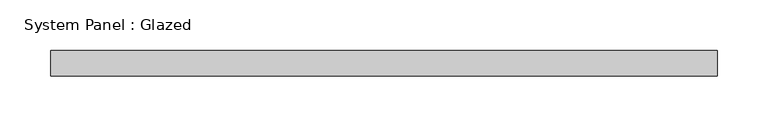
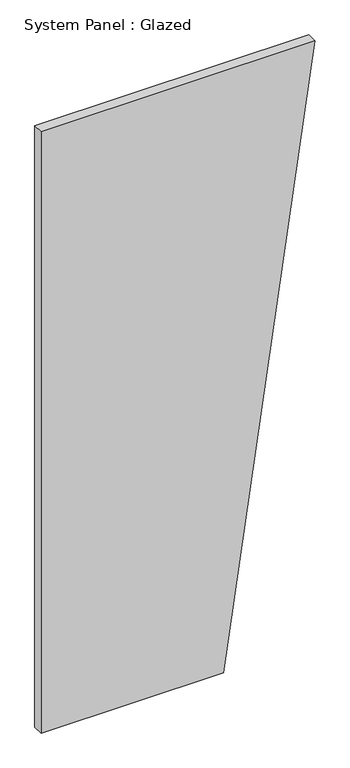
"""IFC4 building model written with IfcOpenShell, lengths in millimetres: plate geometry, System Panel : Glazed."""

import ifcopenshell
import ifcopenshell.guid

model = None  # the IFC model being written
_history = None  # IfcOwnerHistory: only IFC2X3 demands one
_inside = {}  # id of a spatial element -> (the spatial element, [elements in it])
_under = {}  # id of a project, library or spatial element -> (it, [spatial elements below it])
_declared = {}  # id of a project -> (the project, [libraries it declares])
_typed = {}  # id of a type object -> (the type object, [elements of that type])
_made_of = {}  # id of a material, layer set ... -> (it, [elements and type objects made of it])


def new_model(schema):
    """Start an empty IFC model of exactly this schema.

    Asked for "IFC4X3", IfcOpenShell would pick the latest addendum, in which some entities
    have other attributes; the version numbers below select the first issue.
    IFC2X3 requires an IfcOwnerHistory on every rooted entity: one is made here for all.
    """
    global model, _history
    if schema == "IFC4X3":
        model = ifcopenshell.file(schema_version=(4, 3, 0, 0))
    else:
        model = ifcopenshell.file(schema=schema)
    _inside.clear()
    _under.clear()
    _declared.clear()
    _typed.clear()
    _made_of.clear()
    _history = None
    if model.schema == "IFC2X3":
        org = make("IfcOrganization", Name="unknown")
        user = make(
            "IfcPersonAndOrganization",
            ThePerson=make("IfcPerson", FamilyName="unknown"),
            TheOrganization=org,
        )
        app = make(
            "IfcApplication",
            ApplicationDeveloper=org,
            Version="unknown",
            ApplicationFullName="unknown",
            ApplicationIdentifier="unknown",
        )
        _history = make(
            "IfcOwnerHistory",
            OwningUser=user,
            OwningApplication=app,
            ChangeAction="ADDED",
            CreationDate=0,
        )
    return model


def make(cls, **values):
    """One entity of the class cls with the attributes given. An attribute that is None is left unset."""
    return model.create_entity(
        cls, **{name: value for name, value in values.items() if value is not None}
    )


def rooted(cls, **values):
    """An entity with a GlobalId (a new one), such as an element, a storey or a relation."""
    return make(cls, GlobalId=ifcopenshell.guid.new(), OwnerHistory=_history, **values)


def si_unit(unit_type, name, prefix=None):
    """IfcSIUnit, for example si_unit("LENGTHUNIT", "METRE", prefix="MILLI")."""
    return make("IfcSIUnit", UnitType=unit_type, Prefix=prefix, Name=name)


def assignment(units):
    """IfcUnitAssignment: the units of a project."""
    return None if units is None else make("IfcUnitAssignment", Units=units)


def point(xyz):
    """IfcCartesianPoint."""
    return None if xyz is None else make("IfcCartesianPoint", Coordinates=xyz)


def direction(xyz):
    """IfcDirection."""
    return None if xyz is None else make("IfcDirection", DirectionRatios=xyz)


def frame(location, z_axis=None, x_axis=None):
    """IfcAxis2Placement3D, a coordinate frame: its origin and axes. An axis left out is left unset."""
    return make(
        "IfcAxis2Placement3D",
        Location=point(location),
        Axis=direction(z_axis),
        RefDirection=direction(x_axis),
    )


def origin():
    """The frame at (0, 0, 0) with its axes left unset."""
    return frame((0.0, 0.0, 0.0))


def place(relative_to, where):
    """IfcLocalPlacement: puts the frame where relative to a parent placement (None: the world)."""
    return make(
        "IfcLocalPlacement", PlacementRelTo=relative_to, RelativePlacement=where
    )


def context(
    kind, dimensions, precision=None, world=None, true_north=None, identifier=None
):
    """IfcGeometricRepresentationContext, for example the 3D "Model" context."""
    return make(
        "IfcGeometricRepresentationContext",
        ContextIdentifier=identifier,
        ContextType=kind,
        CoordinateSpaceDimension=dimensions,
        Precision=precision,
        WorldCoordinateSystem=world,
        TrueNorth=true_north,
    )


def project(units=None, contexts=None):
    """IfcProject with its units and contexts."""
    return rooted(
        "IfcProject",
        Name="project",
        RepresentationContexts=contexts,
        UnitsInContext=assignment(units),
    )


def spatial(cls, under=None, at=None, **own):
    """A site, building, storey or space (cls), placed at a placement, below another one or the project."""
    s = rooted(cls, ObjectPlacement=at, **own)
    if under is not None:
        _under.setdefault(under.id(), (under, []))[1].append(s)
    return s


def polyline(points):
    """IfcPolyline through the points."""
    return make("IfcPolyline", Points=[point(p) for p in points])


def outline(outer, holes=None, kind="AREA"):
    """IfcArbitraryClosedProfileDef: a profile drawn as a closed curve; with holes, ...WithVoids."""
    if holes is None:
        return make("IfcArbitraryClosedProfileDef", ProfileType=kind, OuterCurve=outer)
    return make(
        "IfcArbitraryProfileDefWithVoids",
        ProfileType=kind,
        OuterCurve=outer,
        InnerCurves=holes,
    )


def extrude(swept, where, along, depth):
    """IfcExtrudedAreaSolid: the profile swept, set in the frame where, extruded along a direction by depth."""
    return make(
        "IfcExtrudedAreaSolid",
        SweptArea=swept,
        Position=where,
        ExtrudedDirection=direction(along),
        Depth=depth,
    )


def shape(context_of_items, identifier, shape_type, items):
    """IfcShapeRepresentation: the items that make up one representation, for example the "Body"."""
    return make(
        "IfcShapeRepresentation",
        ContextOfItems=context_of_items,
        RepresentationIdentifier=identifier,
        RepresentationType=shape_type,
        Items=items,
    )


def source(mapping_origin, context_of_items, identifier, shape_type, items):
    """IfcRepresentationMap: a shape defined once, which mapped items show again and again."""
    return make(
        "IfcRepresentationMap",
        MappingOrigin=mapping_origin,
        MappedRepresentation=shape(context_of_items, identifier, shape_type, items),
    )


def transform(
    local_origin,
    x_axis=None,
    y_axis=None,
    z_axis=None,
    scale=None,
    scale2=None,
    scale3=None,
    uniform=True,
):
    """IfcCartesianTransformationOperator3D, or its non-uniform kind. x_axis, y_axis, z_axis: its Axis1, 2, 3."""
    if uniform:
        return make(
            "IfcCartesianTransformationOperator3D",
            Axis1=direction(x_axis),
            Axis2=direction(y_axis),
            LocalOrigin=point(local_origin),
            Scale=scale,
            Axis3=direction(z_axis),
        )
    return make(
        "IfcCartesianTransformationOperator3DnonUniform",
        Axis1=direction(x_axis),
        Axis2=direction(y_axis),
        LocalOrigin=point(local_origin),
        Scale=scale,
        Axis3=direction(z_axis),
        Scale2=scale2,
        Scale3=scale3,
    )


def mapped(mapping_source, mapping_target):
    """IfcMappedItem: shows the shape of a source again, moved by a transform."""
    return make(
        "IfcMappedItem", MappingSource=mapping_source, MappingTarget=mapping_target
    )


def made_of(thing, what):
    """Note that an element or type object is made of a material, layer set ...; save() writes the relation."""
    if what is not None:
        _made_of.setdefault(what.id(), (what, []))[1].append(thing)
    return thing


def element(
    cls,
    number,
    at=None,
    inside=None,
    cuts=None,
    type_object=None,
    material=None,
    context=None,
    identifier="Body",
    shape_type=None,
    held_by="IfcProductDefinitionShape",
    body=None,
    shapes=None,
    **own,
):
    """One element of the class cls, such as IfcWall. Its Tag is "e" and its number.

    at: its placement. inside: the storey or other place that contains it. cuts: it is an
    opening in that element (IfcRelVoidsElement). A single representation is given by context,
    identifier, shape_type and body (its items); several are given by shapes. held_by: the class
    of the entity that holds the representations. save() writes the other relations.
    """
    e = rooted(cls, Tag="e%d" % number, ObjectPlacement=at, **own)
    if body is not None:
        shapes = [shape(context, identifier, shape_type, body)]
    if shapes is not None:
        e.Representation = make(held_by, Representations=shapes)
    if inside is not None:
        _inside.setdefault(inside.id(), (inside, []))[1].append(e)
    if cuts is not None:
        rooted(
            "IfcRelVoidsElement", RelatingBuildingElement=cuts, RelatedOpeningElement=e
        )
    if type_object is not None:
        _typed.setdefault(type_object.id(), (type_object, []))[1].append(e)
    return made_of(e, material)


def aggregate(whole, parts):
    """IfcRelAggregates: a whole, such as a stair, and the parts it consists of."""
    return rooted("IfcRelAggregates", RelatingObject=whole, RelatedObjects=parts)


def save(model, path):
    """Write the relations noted so far, then the file.

    IfcRelAggregates (storeys below a building ...), IfcRelContainedInSpatialStructure (elements
    in a storey), IfcRelDefinesByType, IfcRelAssociatesMaterial and IfcRelDeclares: one each for
    every whole, place, type object, material and project.
    """
    for whole, parts in _under.values():
        aggregate(whole, parts)
    for where, things in _inside.values():
        rooted(
            "IfcRelContainedInSpatialStructure",
            RelatedElements=things,
            RelatingStructure=where,
        )
    for kind, things in _typed.values():
        rooted("IfcRelDefinesByType", RelatedObjects=things, RelatingType=kind)
    for what, things in _made_of.values():
        rooted("IfcRelAssociatesMaterial", RelatedObjects=things, RelatingMaterial=what)
    for by, libraries in _declared.values():
        rooted("IfcRelDeclares", RelatingContext=by, RelatedDefinitions=libraries)
    model.write(path)


def system_panel_glazed_57b749dd(model_context):
    return source(origin(), model_context, "Body", "SweptSolid", [
        extrude(outline(polyline([(0.0, -328.9208633), (0.0, 109.6402878), (1524.0, 328.9208633), (1524.0, -328.9208633), (0.0, -328.9208633)])), frame((0.0, 19.05, 0.0), z_axis=(0.0, 1.0, 0.0), x_axis=(0.0, 0.0, 1.0)), (0.0, 0.0, 1.0), 25.4),
    ])


if __name__ == "__main__":
    model = new_model("IFC4")
    model_context = context("Model", 3, world=origin())
    ifc_project = project(units=[si_unit("LENGTHUNIT", "METRE", prefix="MILLI")], contexts=[model_context])
    site = spatial("IfcSite", under=ifc_project)
    building = spatial("IfcBuilding", under=site)
    placement = place(None, origin())
    system_panel_glazed_shape = system_panel_glazed_57b749dd(model_context)
    element("IfcPlate", 1, ObjectType="System Panel : Glazed", at=placement, inside=building, context=model_context, shape_type="MappedRepresentation", body=[
        mapped(system_panel_glazed_shape, transform((0.0, 0.0, 0.0), x_axis=(1.0, 0.0, 0.0), y_axis=(0.0, 1.0, 0.0), z_axis=(0.0, 0.0, 1.0))),
    ])
    save(model, "model.ifc")
